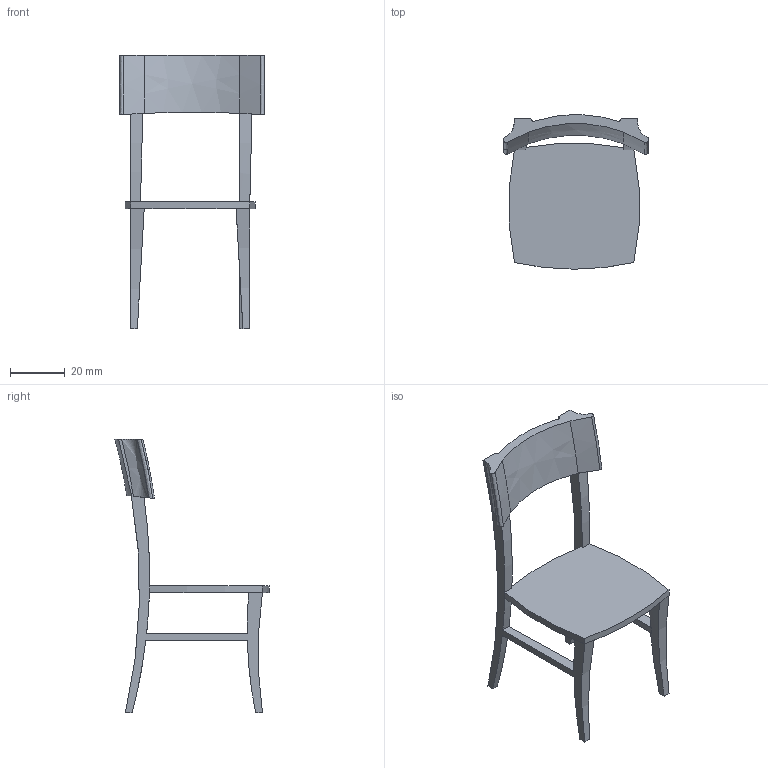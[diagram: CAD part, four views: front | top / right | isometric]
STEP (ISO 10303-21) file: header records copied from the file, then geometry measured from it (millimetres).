
FILE_DESCRIPTION(/* description */ (''),/* implementation_level */ '2;1');
FILE_NAME(/* name */ 'C:/Users/Brian/Desktop/Impressions 3D/Figurines/guitare seche/Chaise avec ergot v1.step',/* time_stamp */ '2021-07-06T18:00:20+02:00',/* author */ (''),/* organization */ (''),/* preprocessor_version */ 'ST-DEVELOPER v18.1',/* originating_system */ 'Autodesk Translation Framework v10.9.0.1377',/* authorisation */ '');
FILE_SCHEMA (('AUTOMOTIVE_DESIGN { 1 0 10303 214 3 1 1 }'));
Length unit declared in the file: millimetre
Products named in the file (1): Chaise avec ergot
Bounding box: 53.14 x 56.41 x 100 mm (x, y, z)
Volume: 13206.7 mm3; surface area: 11833.4 mm2
Topology: 1 solids, 1 shells, 61 faces, 184 edges, 119 vertices
Faces by surface type: bspline 36, plane 20, cylinder 5
Entity records: 3238 total; most frequent: CARTESIAN_POINT 1809, ORIENTED_EDGE 368, EDGE_CURVE 184, DIRECTION 180, VERTEX_POINT 119, B_SPLINE_CURVE_WITH_KNOTS 90, FACE_OUTER_BOUND 61, EDGE_LOOP 61
